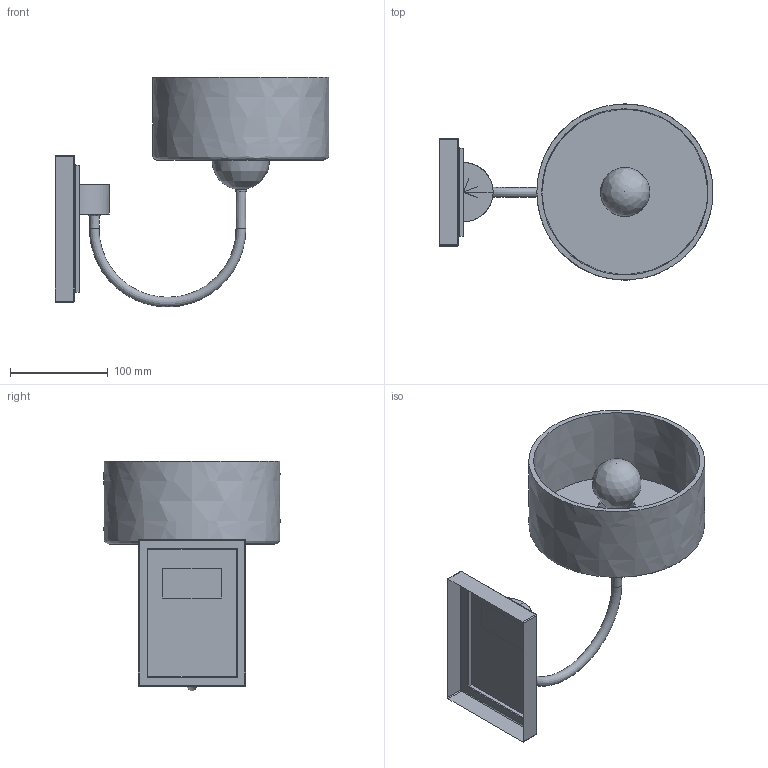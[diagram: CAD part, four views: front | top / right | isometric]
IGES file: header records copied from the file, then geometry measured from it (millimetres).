
Global section: file name: Z:\; native system: Rhinoceros ( Nov 10 2025 ); preprocessor: Trout Lake IGES 012 Nov 10 2025; date: 260530.014116; units: millimetre
Bounding box: 280 x 179.98 x 235 mm (x, y, z)
Surface area: 217205.5 mm2 (no closed solid volume)
Topology: 0 solids, 0 shells, 99 faces, 403 edges, 334 vertices
Faces by surface type: bspline 99
